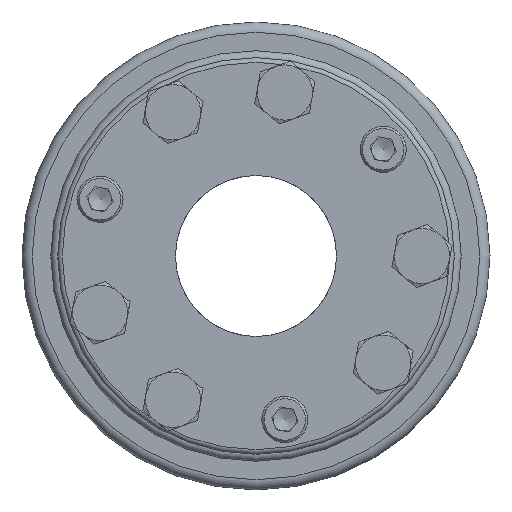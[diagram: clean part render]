
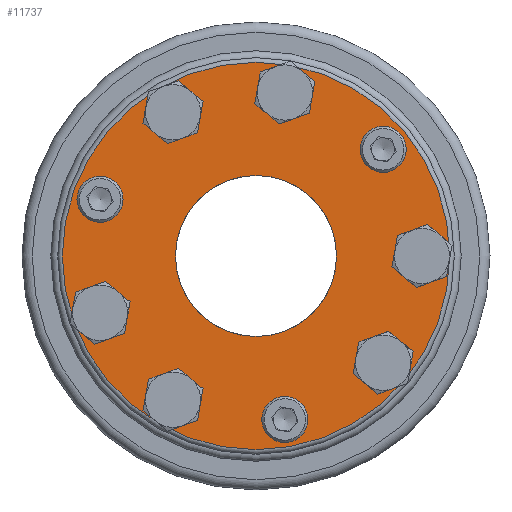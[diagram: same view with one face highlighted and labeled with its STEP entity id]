
A CAD part, left-side view. The second image highlights one B-rep face of the part: STEP entity #11737.
In plain terms, the highlighted planar face has unit normal (-1, 0, 0).
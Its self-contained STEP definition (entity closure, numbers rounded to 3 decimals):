
#1426=ORIENTED_EDGE('',*,*,#3432,.F.);
#1427=ORIENTED_EDGE('',*,*,#3433,.F.);
#1428=ORIENTED_EDGE('',*,*,#3434,.F.);
#1429=ORIENTED_EDGE('',*,*,#3435,.F.);
#1430=ORIENTED_EDGE('',*,*,#3436,.F.);
#1431=ORIENTED_EDGE('',*,*,#3437,.F.);
#1432=ORIENTED_EDGE('',*,*,#3438,.T.);
#1433=ORIENTED_EDGE('',*,*,#3439,.F.);
#1434=ORIENTED_EDGE('',*,*,#3440,.F.);
#1435=ORIENTED_EDGE('',*,*,#3441,.F.);
#1436=ORIENTED_EDGE('',*,*,#3442,.F.);
#3432=EDGE_CURVE('',#4444,#4444,#5202,.T.);
#3433=EDGE_CURVE('',#4445,#4445,#5203,.T.);
#3434=EDGE_CURVE('',#4446,#4446,#5204,.T.);
#3435=EDGE_CURVE('',#4447,#4447,#5205,.T.);
#3436=EDGE_CURVE('',#4448,#4448,#5206,.T.);
#3437=EDGE_CURVE('',#4449,#4449,#5207,.T.);
#3438=EDGE_CURVE('',#4450,#4450,#5208,.T.);
#3439=EDGE_CURVE('',#4451,#4451,#5209,.T.);
#3440=EDGE_CURVE('',#4452,#4452,#5210,.T.);
#3441=EDGE_CURVE('',#4453,#4453,#5211,.T.);
#3442=EDGE_CURVE('',#4454,#4454,#5212,.T.);
#4444=VERTEX_POINT('',#15562);
#4445=VERTEX_POINT('',#15564);
#4446=VERTEX_POINT('',#15566);
#4447=VERTEX_POINT('',#15568);
#4448=VERTEX_POINT('',#15570);
#4449=VERTEX_POINT('',#15572);
#4450=VERTEX_POINT('',#15574);
#4451=VERTEX_POINT('',#15576);
#4452=VERTEX_POINT('',#15578);
#4453=VERTEX_POINT('',#15580);
#4454=VERTEX_POINT('',#15582);
#5202=CIRCLE('',#12361,10.);
#5203=CIRCLE('',#12362,10.);
#5204=CIRCLE('',#12363,10.);
#5205=CIRCLE('',#12364,11.25);
#5206=CIRCLE('',#12365,11.25);
#5207=CIRCLE('',#12366,11.25);
#5208=CIRCLE('',#12367,84.);
#5209=CIRCLE('',#12368,34.925);
#5210=CIRCLE('',#12369,11.25);
#5211=CIRCLE('',#12370,11.25);
#5212=CIRCLE('',#12371,11.25);
#5572=EDGE_LOOP('',(#1426));
#5573=EDGE_LOOP('',(#1427));
#5574=EDGE_LOOP('',(#1428));
#5575=EDGE_LOOP('',(#1429));
#5576=EDGE_LOOP('',(#1430));
#5577=EDGE_LOOP('',(#1431));
#5578=EDGE_LOOP('',(#1432));
#5579=EDGE_LOOP('',(#1433));
#5580=EDGE_LOOP('',(#1434));
#5581=EDGE_LOOP('',(#1435));
#5582=EDGE_LOOP('',(#1436));
#6480=FACE_BOUND('',#5572,.T.);
#6481=FACE_BOUND('',#5573,.T.);
#6482=FACE_BOUND('',#5574,.T.);
#6483=FACE_BOUND('',#5575,.T.);
#6484=FACE_BOUND('',#5576,.T.);
#6485=FACE_BOUND('',#5577,.T.);
#6486=FACE_BOUND('',#5578,.T.);
#6487=FACE_BOUND('',#5579,.T.);
#6488=FACE_BOUND('',#5580,.T.);
#6489=FACE_BOUND('',#5581,.T.);
#6490=FACE_BOUND('',#5582,.T.);
#7376=PLANE('',#12360);
#11737=ADVANCED_FACE('',(#6480,#6481,#6482,#6483,#6484,#6485,#6486,#6487,
#6488,#6489,#6490),#7376,.T.);
#12360=AXIS2_PLACEMENT_3D('',#15560,#13345,#13346);
#12361=AXIS2_PLACEMENT_3D('',#15561,#13347,#13348);
#12362=AXIS2_PLACEMENT_3D('',#15563,#13349,#13350);
#12363=AXIS2_PLACEMENT_3D('',#15565,#13351,#13352);
#12364=AXIS2_PLACEMENT_3D('',#15567,#13353,#13354);
#12365=AXIS2_PLACEMENT_3D('',#15569,#13355,#13356);
#12366=AXIS2_PLACEMENT_3D('',#15571,#13357,#13358);
#12367=AXIS2_PLACEMENT_3D('',#15573,#13359,#13360);
#12368=AXIS2_PLACEMENT_3D('',#15575,#13361,#13362);
#12369=AXIS2_PLACEMENT_3D('',#15577,#13363,#13364);
#12370=AXIS2_PLACEMENT_3D('',#15579,#13365,#13366);
#12371=AXIS2_PLACEMENT_3D('',#15581,#13367,#13368);
#13345=DIRECTION('',(-1.,0.,0.));
#13346=DIRECTION('',(0.,0.94,-0.342));
#13347=DIRECTION('',(-1.,0.,0.));
#13348=DIRECTION('',(0.,0.94,-0.342));
#13349=DIRECTION('',(-1.,0.,0.));
#13350=DIRECTION('',(0.,0.94,-0.342));
#13351=DIRECTION('',(-1.,0.,0.));
#13352=DIRECTION('',(0.,0.94,-0.342));
#13353=DIRECTION('',(-1.,0.,0.));
#13354=DIRECTION('',(0.,-0.94,0.342));
#13355=DIRECTION('',(-1.,0.,0.));
#13356=DIRECTION('',(0.,-0.94,0.342));
#13357=DIRECTION('',(-1.,0.,0.));
#13358=DIRECTION('',(0.,-0.94,0.342));
#13359=DIRECTION('',(-1.,0.,0.));
#13360=DIRECTION('',(0.,0.94,-0.342));
#13361=DIRECTION('',(-1.,0.,0.));
#13362=DIRECTION('',(0.,0.94,-0.342));
#13363=DIRECTION('',(-1.,0.,0.));
#13364=DIRECTION('',(0.,-0.94,0.342));
#13365=DIRECTION('',(-1.,0.,0.));
#13366=DIRECTION('',(0.,-0.94,0.342));
#13367=DIRECTION('',(-1.,0.,0.));
#13368=DIRECTION('',(0.,-0.94,0.342));
#15560=CARTESIAN_POINT('',(-132.2,32.819,-11.945));
#15561=CARTESIAN_POINT('',(-132.2,-12.503,-70.906));
#15562=CARTESIAN_POINT('',(-132.2,-3.106,-74.326));
#15563=CARTESIAN_POINT('',(-132.2,-55.155,46.281));
#15564=CARTESIAN_POINT('',(-132.2,-45.758,42.861));
#15565=CARTESIAN_POINT('',(-132.2,67.658,24.625));
#15566=CARTESIAN_POINT('',(-132.2,77.055,21.205));
#15567=CARTESIAN_POINT('',(-132.2,36.,62.354));
#15568=CARTESIAN_POINT('',(-132.2,25.428,66.202));
#15569=CARTESIAN_POINT('',(-132.2,36.,-62.354));
#15570=CARTESIAN_POINT('',(-132.2,25.428,-58.506));
#15571=CARTESIAN_POINT('',(-132.2,-72.,0.));
#15572=CARTESIAN_POINT('',(-132.2,-82.572,3.848));
#15573=CARTESIAN_POINT('',(-132.2,0.,0.));
#15574=CARTESIAN_POINT('',(-132.2,78.934,-28.73));
#15575=CARTESIAN_POINT('',(-132.2,0.,0.));
#15576=CARTESIAN_POINT('',(-132.2,32.819,-11.945));
#15577=CARTESIAN_POINT('',(-132.2,-55.155,-46.281));
#15578=CARTESIAN_POINT('',(-132.2,-65.727,-42.433));
#15579=CARTESIAN_POINT('',(-132.2,67.658,-24.625));
#15580=CARTESIAN_POINT('',(-132.2,57.086,-20.778));
#15581=CARTESIAN_POINT('',(-132.2,-12.503,70.906));
#15582=CARTESIAN_POINT('',(-132.2,-23.074,74.754));
